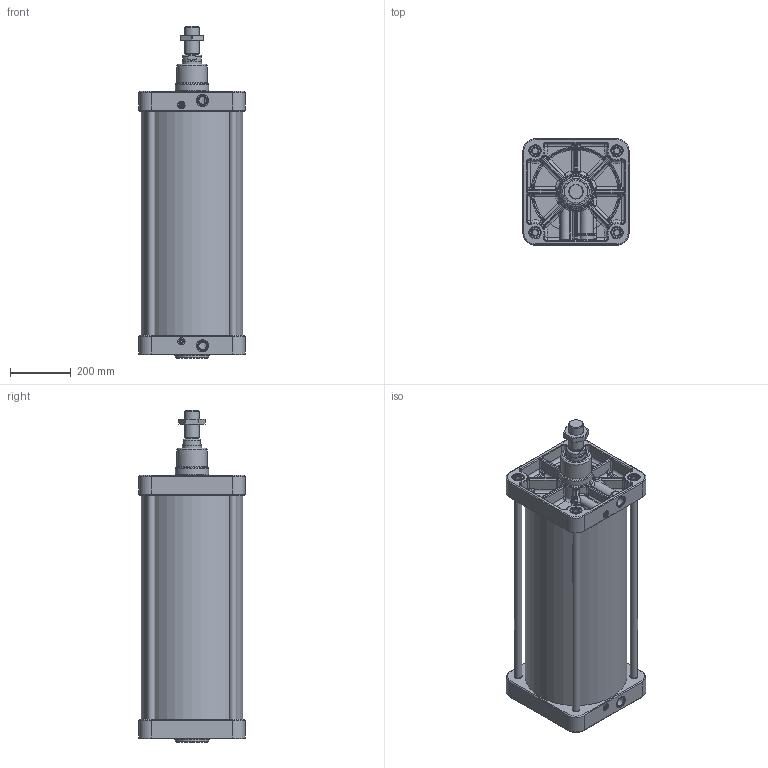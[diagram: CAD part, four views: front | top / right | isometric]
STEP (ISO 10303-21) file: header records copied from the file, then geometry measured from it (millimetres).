
FILE_DESCRIPTION(/* description */ (''),/* implementation_level */ '2;1');
FILE_NAME(/* name */ 'T:\Archivio Inventor\- 00 NUOVI STP PER SITO CON STELO CHE SI MUOVE\SERIE H - U\SERIE UDM\UDM320.---.GS.M\UDM320.650.GS.M.stp',/* time_stamp */ '2020-04-29T16:35:53+02:00',/* author */ ('carlo.corazza'),/* organization */ (''),/* preprocessor_version */ 'ST-DEVELOPER v16.5',/* originating_system */ 'Autodesk Inventor 2017',/* authorisation */ '');
FILE_SCHEMA (('AUTOMOTIVE_DESIGN { 1 0 10303 214 3 1 1 }'));
Length unit declared in the file: millimetre
Products named in the file (7): UDM320.650.GS.M; TP; STELO-650; TA; CORPO-650; TIRANTE-650; 29.2048.000.0
Assembly tree (9 placements, depth 2):
  UDM320.650.GS.M
    TP
    STELO-650
    TA
    TIRANTE-650  x4
    CORPO-650
    29.2048.000.0
Bounding box: 350 x 350 x 1096 mm (x, y, z)
Volume: 19698756.7 mm3; surface area: 3140151.7 mm2
Topology: 9 solids, 16 shells, 1710 faces, 3937 edges, 2221 vertices
Faces by surface type: cylinder 439, bspline 432, plane 380, torus 252, cone 115, sphere 92
Full cylindrical faces by diameter (mm): 8 x2, 9 x1, 10 x1, 11 x2, 11.2 x2, 12 x2, 12.376 x1, 13.4 x4, 14 x2, 15.8 x4, 16 x6, 20.752 x8, 24 x10, 24.5 x8, 25 x6, 30.291 x2, 36 x9, 37 x8, 40 x2, 44.8 x1, 45.835 x1, 48 x1, 62 x1, 63 x1, 64 x1, 64.293 x1, 65.8 x1, 73 x1, 75 x3, 100 x1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
Entity records: 64917 total; most frequent: CARTESIAN_POINT 27888, DIRECTION 7314, ORIENTED_EDGE 7088, EDGE_CURVE 3544, AXIS2_PLACEMENT_3D 3113, VERTEX_POINT 2134, EDGE_LOOP 1966, FACE_OUTER_BOUND 1683
